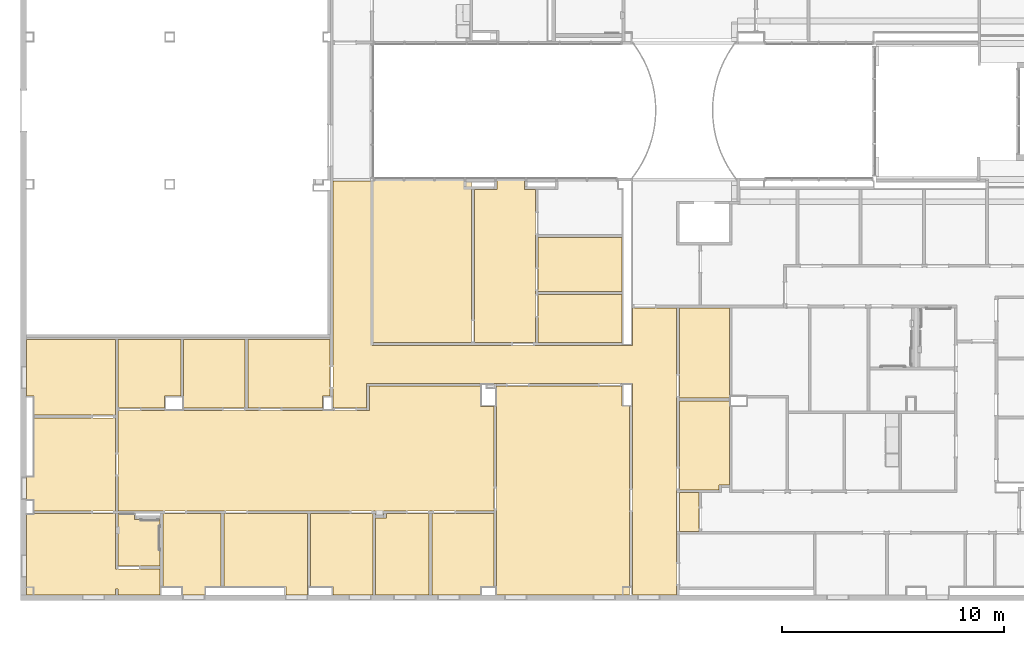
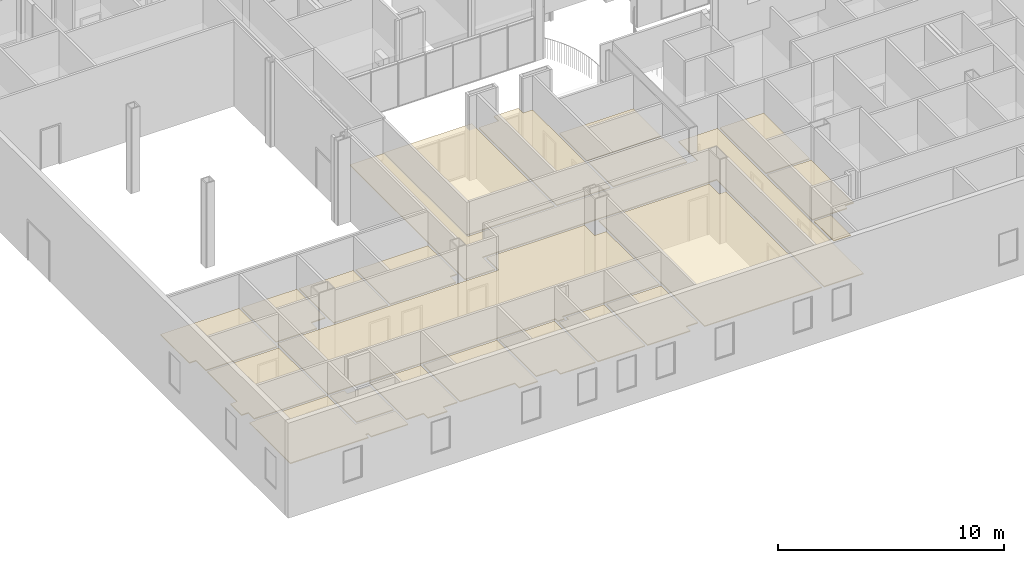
# One storey, part 26 of 47: 22 coverings.
"""IFC2X3 building model written with IfcOpenShell, lengths in metres."""

from ifc_helpers import new_model, entity, si_unit, converted_unit, frame, origin, place, context, project, spatial, face_set, surface_model, material, layer, layer_set, layer_usage, element, save


model = new_model("IFC2X3")

# Units and contexts
model_context = context("Model", 3, precision=1e-09, world=origin())
plan_context = context("Plan", 3, precision=1e-09, world=origin())
ifc_project = project(units=[si_unit("LENGTHUNIT", "METRE"), si_unit("AREAUNIT", "SQUARE_METRE"), si_unit("VOLUMEUNIT", "CUBIC_METRE"), converted_unit("PLANEANGLEUNIT", "DEGREE", entity("IfcRatioMeasure", 0.01745329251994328), si_unit("PLANEANGLEUNIT", "RADIAN"), dimensions=[0, 0, 0, 0, 0, 0, 0]), si_unit("TIMEUNIT", "SECOND")], contexts=[model_context, plan_context])

# Site, building, storey
site_placement = place(None, origin())
site = spatial("IfcSite", under=ifc_project, at=site_placement, Name="Default", CompositionType="ELEMENT")
building_placement = place(site_placement, origin())
building = spatial("IfcBuilding", under=site, at=building_placement, CompositionType="ELEMENT")
storey_placement = place(building_placement, frame((0.0, 0.0, 4.570000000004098)))
storey = spatial("IfcBuildingStorey", under=building, at=storey_placement, Name="Second Floor", CompositionType="ELEMENT", Elevation=4.570000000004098)

# Coverings
ifc_material_1 = material(Name="Default")
ifc_layer_1 = layer(ifc_material_1, 0.03599999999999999)
ifc_material_2 = material(Name="Ceiling Tile 600 x 600")
ifc_layer_2 = layer(ifc_material_2, 0.016)
ifc_layer_set = layer_set([ifc_layer_1, ifc_layer_2], Name="Compound Ceiling:ACT 600 x 600mm Grid")
ifc_layer_usage_1 = layer_usage(ifc_layer_set, "AXIS3", "NEGATIVE", 0.0)
covering_1_placement = place(storey_placement, origin())
element("IfcCovering", 1, at=covering_1_placement, inside=storey, material=ifc_layer_usage_1, Name="Compound Ceiling:ACT 600 x 600mm Grid", ObjectType="Compound Ceiling:ACT 600 x 600mm Grid", PredefinedType="CEILING", context=model_context, shape_type="SurfaceModel", body=[
    surface_model("IfcFaceBasedSurfaceModel", [(-47.11300000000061, 18.87443871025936, 2.732000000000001), (-46.77000000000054, 18.87443871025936, 2.732000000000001), (-46.77000000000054, 18.01443871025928, 2.732000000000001), (-43.11000000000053, 18.01443871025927, 2.732000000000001), (-43.11000000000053, 21.41443871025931, 2.732000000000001), (-47.11300000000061, 21.41443871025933, 2.732000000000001), (-47.11300000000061, 18.87443871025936, 2.680000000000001), (-47.11300000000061, 21.41443871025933, 2.680000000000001), (-43.11000000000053, 21.41443871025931, 2.680000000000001), (-43.11000000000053, 18.01443871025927, 2.680000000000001), (-46.77000000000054, 18.01443871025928, 2.680000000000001), (-46.77000000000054, 18.87443871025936, 2.680000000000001)], [face_set([[[0, 1, 2, 3, 4, 5]], [[6, 7, 8, 9, 10, 11]], [[2, 10, 11, 1]], [[3, 2, 10, 9]], [[4, 3, 9, 8]], [[5, 7, 8, 4]], [[0, 6, 7, 5]], [[1, 0, 6, 11]]])]),
])
ifc_layer_usage_2 = layer_usage(ifc_layer_set, "AXIS3", "NEGATIVE", 0.0)
covering_2_placement = place(storey_placement, origin())
element("IfcCovering", 2, at=covering_2_placement, inside=storey, material=ifc_layer_usage_2, Name="Compound Ceiling:ACT 600 x 600mm Grid", ObjectType="Compound Ceiling:ACT 600 x 600mm Grid", PredefinedType="CEILING", context=model_context, shape_type="SurfaceModel", body=[
    surface_model("IfcFaceBasedSurfaceModel", [(-42.98600000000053, 18.34843871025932, 2.732000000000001), (-42.98600000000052, 21.41443871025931, 2.732000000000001), (-40.15900000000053, 21.4144387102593, 2.732000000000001), (-40.15900000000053, 18.87443871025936, 2.732000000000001), (-40.89000000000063, 18.87443871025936, 2.732000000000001), (-40.89000000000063, 18.34843871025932, 2.732000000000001), (-42.98600000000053, 18.34843871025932, 2.680000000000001), (-42.98600000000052, 21.41443871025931, 2.680000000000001), (-40.15900000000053, 21.4144387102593, 2.680000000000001), (-40.15900000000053, 18.87443871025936, 2.680000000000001), (-40.89000000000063, 18.87443871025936, 2.680000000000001), (-40.89000000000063, 18.34843871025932, 2.680000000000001)], [face_set([[[0, 1, 2, 3, 4, 5]], [[6, 7, 8, 9, 10, 11]], [[5, 0, 6, 11]], [[4, 5, 11, 10]], [[3, 4, 10, 9]], [[2, 3, 9, 8]], [[1, 7, 8, 2]], [[0, 6, 7, 1]]])]),
])
ifc_layer_usage_3 = layer_usage(ifc_layer_set, "AXIS3", "NEGATIVE", 0.0)
covering_3_placement = place(storey_placement, origin())
element("IfcCovering", 3, at=covering_3_placement, inside=storey, material=ifc_layer_usage_3, Name="Compound Ceiling:ACT 600 x 600mm Grid", ObjectType="Compound Ceiling:ACT 600 x 600mm Grid", PredefinedType="CEILING", context=model_context, shape_type="SurfaceModel", body=[
    surface_model("IfcFaceBasedSurfaceModel", [(-37.26400000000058, 18.3484387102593, 2.732000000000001), (-40.03500000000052, 18.34843871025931, 2.732000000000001), (-40.03500000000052, 21.4144387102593, 2.732000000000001), (-37.26400000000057, 21.41443871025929, 2.732000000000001), (-37.26400000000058, 18.3484387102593, 2.680000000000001), (-40.03500000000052, 18.34843871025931, 2.680000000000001), (-40.03500000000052, 21.4144387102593, 2.680000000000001), (-37.26400000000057, 21.41443871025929, 2.680000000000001)], [face_set([[[0, 1, 2, 3]], [[4, 5, 6, 7]], [[3, 0, 4, 7]], [[2, 6, 7, 3]], [[1, 5, 6, 2]], [[0, 1, 5, 4]]])]),
])
ifc_layer_usage_4 = layer_usage(ifc_layer_set, "AXIS3", "NEGATIVE", 0.0)
covering_4_placement = place(storey_placement, origin())
element("IfcCovering", 4, at=covering_4_placement, inside=storey, material=ifc_layer_usage_4, Name="Compound Ceiling:ACT 600 x 600mm Grid", ObjectType="Compound Ceiling:ACT 600 x 600mm Grid", PredefinedType="CEILING", context=model_context, shape_type="SurfaceModel", body=[
    surface_model("IfcFaceBasedSurfaceModel", [(-37.14000000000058, 21.41443871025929, 2.732000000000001), (-33.44400000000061, 21.41443871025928, 2.732000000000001), (-33.44400000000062, 18.87443871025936, 2.732000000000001), (-33.78000000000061, 18.87443871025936, 2.732000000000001), (-33.78000000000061, 18.34843871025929, 2.732000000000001), (-37.14000000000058, 18.3484387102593, 2.732000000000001), (-37.14000000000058, 21.41443871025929, 2.680000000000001), (-33.44400000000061, 21.41443871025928, 2.680000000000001), (-33.44400000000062, 18.87443871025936, 2.680000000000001), (-33.78000000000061, 18.87443871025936, 2.680000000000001), (-33.78000000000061, 18.34843871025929, 2.680000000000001), (-37.14000000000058, 18.3484387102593, 2.680000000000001)], [face_set([[[0, 1, 2, 3, 4, 5]], [[6, 7, 8, 9, 10, 11]], [[5, 11, 6, 0]], [[4, 5, 11, 10]], [[3, 4, 10, 9]], [[2, 3, 9, 8]], [[1, 2, 8, 7]], [[0, 6, 7, 1]]])]),
])
ifc_layer_usage_5 = layer_usage(ifc_layer_set, "AXIS3", "NEGATIVE", 0.0)
covering_5_placement = place(storey_placement, origin())
element("IfcCovering", 5, at=covering_5_placement, inside=storey, material=ifc_layer_usage_5, Name="Compound Ceiling:ACT 600 x 600mm Grid", ObjectType="Compound Ceiling:ACT 600 x 600mm Grid", PredefinedType="CEILING", context=model_context, shape_type="SurfaceModel", body=[
    surface_model("IfcFaceBasedSurfaceModel", [(-17.83000000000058, 12.7864387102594, 2.732000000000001), (-17.83000000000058, 9.926999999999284, 2.732000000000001), (-19.8300000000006, 9.926999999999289, 2.732000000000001), (-19.83000000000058, 19.44443871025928, 2.732000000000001), (-31.80000000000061, 19.44443871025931, 2.732000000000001), (-31.80000000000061, 18.34843871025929, 2.732000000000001), (-33.32000000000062, 18.34843871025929, 2.732000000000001), (-33.3200000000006, 28.55843871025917, 2.732000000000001), (-31.55100000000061, 28.55843871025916, 2.732000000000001), (-31.55100000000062, 21.15443871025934, 2.732000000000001), (-19.83000000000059, 21.1544387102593, 2.732000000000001), (-19.83000000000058, 22.85043871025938, 2.732000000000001), (-17.83000000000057, 22.85043871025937, 2.732000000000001), (-17.83000000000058, 14.58643871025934, 2.732000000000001), (-17.83000000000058, 12.7864387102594, 2.680000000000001), (-17.83000000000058, 9.926999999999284, 2.680000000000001), (-19.8300000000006, 9.926999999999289, 2.680000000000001), (-19.83000000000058, 19.44443871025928, 2.680000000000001), (-31.80000000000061, 19.44443871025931, 2.680000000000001), (-31.80000000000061, 18.34843871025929, 2.680000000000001), (-33.32000000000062, 18.34843871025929, 2.680000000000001), (-33.3200000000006, 28.55843871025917, 2.680000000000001), (-31.55100000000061, 28.55843871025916, 2.680000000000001), (-31.55100000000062, 21.15443871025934, 2.680000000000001), (-19.83000000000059, 21.1544387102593, 2.680000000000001), (-19.83000000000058, 22.85043871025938, 2.680000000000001), (-17.83000000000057, 22.85043871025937, 2.680000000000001), (-17.83000000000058, 14.58643871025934, 2.680000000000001)], [face_set([[[0, 1, 2, 3, 4, 5, 6, 7, 8, 9, 10, 11, 12, 13]], [[14, 15, 16, 17, 18, 19, 20, 21, 22, 23, 24, 25, 26, 27]], [[13, 0, 14, 27]], [[12, 13, 27, 26]], [[11, 25, 26, 12]], [[10, 24, 25, 11]], [[9, 23, 24, 10]], [[8, 9, 23, 22]], [[7, 21, 22, 8]], [[6, 20, 21, 7]], [[5, 6, 20, 19]], [[4, 5, 19, 18]], [[3, 4, 18, 17]], [[2, 16, 17, 3]], [[1, 2, 16, 15]], [[0, 1, 15, 14]]])]),
])
ifc_layer_usage_6 = layer_usage(ifc_layer_set, "AXIS3", "NEGATIVE", 0.0)
covering_6_placement = place(storey_placement, origin())
element("IfcCovering", 6, at=covering_6_placement, inside=storey, material=ifc_layer_usage_6, Name="Compound Ceiling:ACT 600 x 600mm Grid", ObjectType="Compound Ceiling:ACT 600 x 600mm Grid", PredefinedType="CEILING", context=model_context, shape_type="SurfaceModel", body=[
    surface_model("IfcFaceBasedSurfaceModel", [(-47.11300000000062, 14.22735389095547, 2.732000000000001), (-46.77000000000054, 14.22735389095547, 2.732000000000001), (-46.77000000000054, 13.70443871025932, 2.732000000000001), (-43.11000000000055, 13.7044387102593, 2.732000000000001), (-43.11000000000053, 17.89043871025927, 2.732000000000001), (-46.77000000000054, 17.89043871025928, 2.732000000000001), (-46.77000000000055, 15.22735389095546, 2.732000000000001), (-47.11300000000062, 15.22735389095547, 2.732000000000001), (-47.11300000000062, 14.22735389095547, 2.680000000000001), (-47.11300000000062, 15.22735389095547, 2.680000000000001), (-46.77000000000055, 15.22735389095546, 2.680000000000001), (-46.77000000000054, 17.89043871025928, 2.680000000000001), (-43.11000000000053, 17.89043871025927, 2.680000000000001), (-43.11000000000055, 13.7044387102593, 2.680000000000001), (-46.77000000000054, 13.70443871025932, 2.680000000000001), (-46.77000000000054, 14.22735389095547, 2.680000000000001)], [face_set([[[0, 1, 2, 3, 4, 5, 6, 7]], [[8, 9, 10, 11, 12, 13, 14, 15]], [[2, 14, 15, 1]], [[3, 2, 14, 13]], [[4, 3, 13, 12]], [[5, 11, 12, 4]], [[6, 10, 11, 5]], [[7, 9, 10, 6]], [[0, 8, 9, 7]], [[1, 0, 8, 15]]])]),
])
ifc_layer_usage_7 = layer_usage(ifc_layer_set, "AXIS3", "NEGATIVE", 0.0)
covering_7_placement = place(storey_placement, origin())
element("IfcCovering", 7, at=covering_7_placement, inside=storey, material=ifc_layer_usage_7, Name="Compound Ceiling:ACT 600 x 600mm Grid", ObjectType="Compound Ceiling:ACT 600 x 600mm Grid", PredefinedType="CEILING", context=model_context, shape_type="SurfaceModel", body=[
    surface_model("IfcFaceBasedSurfaceModel", [(-31.67600000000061, 19.32043871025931, 2.732000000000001), (-31.67600000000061, 18.22443871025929, 2.732000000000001), (-42.98600000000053, 18.22443871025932, 2.732000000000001), (-42.98600000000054, 13.7044387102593, 2.732000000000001), (-31.38500000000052, 13.70443871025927, 2.732000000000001), (-31.38500000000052, 13.50943871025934, 2.732000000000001), (-31.03500000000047, 13.50943871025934, 2.732000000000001), (-31.03500000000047, 13.70443871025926, 2.732000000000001), (-26.0640000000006, 13.70443871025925, 2.732000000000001), (-26.06400000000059, 18.41443871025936, 2.732000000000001), (-26.66000000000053, 18.41443871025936, 2.732000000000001), (-26.66000000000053, 19.3204387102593, 2.732000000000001), (-31.67600000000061, 19.32043871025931, 2.680000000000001), (-26.66000000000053, 19.3204387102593, 2.680000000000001), (-26.66000000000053, 18.41443871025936, 2.680000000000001), (-26.06400000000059, 18.41443871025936, 2.680000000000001), (-26.0640000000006, 13.70443871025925, 2.680000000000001), (-31.03500000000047, 13.70443871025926, 2.680000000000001), (-31.03500000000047, 13.50943871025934, 2.680000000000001), (-31.38500000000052, 13.50943871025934, 2.680000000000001), (-31.38500000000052, 13.70443871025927, 2.680000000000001), (-42.98600000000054, 13.7044387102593, 2.680000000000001), (-42.98600000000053, 18.22443871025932, 2.680000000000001), (-31.67600000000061, 18.22443871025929, 2.680000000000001)], [face_set([[[0, 1, 2, 3, 4, 5, 6, 7, 8, 9, 10, 11]], [[12, 13, 14, 15, 16, 17, 18, 19, 20, 21, 22, 23]], [[1, 23, 12, 0]], [[2, 22, 23, 1]], [[3, 21, 22, 2]], [[4, 3, 21, 20]], [[5, 19, 20, 4]], [[6, 5, 19, 18]], [[7, 6, 18, 17]], [[8, 7, 17, 16]], [[9, 8, 16, 15]], [[10, 14, 15, 9]], [[11, 10, 14, 13]], [[0, 12, 13, 11]]])]),
])
ifc_layer_usage_8 = layer_usage(ifc_layer_set, "AXIS3", "NEGATIVE", 0.0)
covering_8_placement = place(storey_placement, origin())
element("IfcCovering", 8, at=covering_8_placement, inside=storey, material=ifc_layer_usage_8, Name="Compound Ceiling:ACT 600 x 600mm Grid", ObjectType="Compound Ceiling:ACT 600 x 600mm Grid", PredefinedType="CEILING", context=model_context, shape_type="SurfaceModel", body=[
    surface_model("IfcFaceBasedSurfaceModel", [(-39.08330308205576, 9.926999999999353, 2.732000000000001), (-39.08330308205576, 10.30433433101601, 2.732000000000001), (-38.34400000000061, 10.30433433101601, 2.732000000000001), (-38.34400000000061, 13.58043871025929, 2.732000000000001), (-40.96600000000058, 13.58043871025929, 2.732000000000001), (-40.96600000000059, 10.30433433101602, 2.732000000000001), (-40.08330308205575, 10.30433433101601, 2.732000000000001), (-40.08330308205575, 9.926999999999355, 2.732000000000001), (-39.08330308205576, 9.926999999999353, 2.680000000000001), (-40.08330308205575, 9.926999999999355, 2.680000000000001), (-40.08330308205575, 10.30433433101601, 2.680000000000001), (-40.96600000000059, 10.30433433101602, 2.680000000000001), (-40.96600000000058, 13.58043871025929, 2.680000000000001), (-38.34400000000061, 13.58043871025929, 2.680000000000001), (-38.34400000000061, 10.30433433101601, 2.680000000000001), (-39.08330308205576, 10.30433433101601, 2.680000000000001)], [face_set([[[0, 1, 2, 3, 4, 5, 6, 7]], [[8, 9, 10, 11, 12, 13, 14, 15]], [[2, 1, 15, 14]], [[3, 2, 14, 13]], [[4, 12, 13, 3]], [[5, 11, 12, 4]], [[6, 5, 11, 10]], [[7, 9, 10, 6]], [[0, 7, 9, 8]], [[1, 0, 8, 15]]])]),
])
ifc_layer_usage_9 = layer_usage(ifc_layer_set, "AXIS3", "NEGATIVE", 0.0)
covering_9_placement = place(storey_placement, origin())
element("IfcCovering", 9, at=covering_9_placement, inside=storey, material=ifc_layer_usage_9, Name="Compound Ceiling:ACT 600 x 600mm Grid", ObjectType="Compound Ceiling:ACT 600 x 600mm Grid", PredefinedType="CEILING", context=model_context, shape_type="SurfaceModel", body=[
    surface_model("IfcFaceBasedSurfaceModel", [(-34.45404823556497, 9.926999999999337, 2.732000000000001), (-35.42004823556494, 9.926999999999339, 2.732000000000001), (-35.42004823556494, 10.304334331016, 2.732000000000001), (-38.22000000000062, 10.30433433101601, 2.732000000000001), (-38.22000000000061, 13.58043871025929, 2.732000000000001), (-34.45404823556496, 13.58043871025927, 2.732000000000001), (-34.45404823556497, 9.926999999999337, 2.680000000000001), (-35.42004823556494, 9.926999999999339, 2.680000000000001), (-35.42004823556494, 10.304334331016, 2.680000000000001), (-38.22000000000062, 10.30433433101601, 2.680000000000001), (-38.22000000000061, 13.58043871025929, 2.680000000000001), (-34.45404823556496, 13.58043871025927, 2.680000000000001)], [face_set([[[0, 1, 2, 3, 4, 5]], [[6, 7, 8, 9, 10, 11]], [[5, 0, 6, 11]], [[4, 10, 11, 5]], [[3, 9, 10, 4]], [[2, 3, 9, 8]], [[1, 7, 8, 2]], [[0, 1, 7, 6]]])]),
])
ifc_layer_usage_10 = layer_usage(ifc_layer_set, "AXIS3", "NEGATIVE", 0.0)
covering_10_placement = place(storey_placement, origin())
element("IfcCovering", 10, at=covering_10_placement, inside=storey, material=ifc_layer_usage_10, Name="Compound Ceiling:ACT 600 x 600mm Grid", ObjectType="Compound Ceiling:ACT 600 x 600mm Grid", PredefinedType="CEILING", context=model_context, shape_type="SurfaceModel", body=[
    surface_model("IfcFaceBasedSurfaceModel", [(-31.50900000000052, 9.926999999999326, 2.732000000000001), (-33.3200000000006, 9.926999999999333, 2.732000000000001), (-33.3200000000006, 10.30433433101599, 2.732000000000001), (-34.33004823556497, 10.30433433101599, 2.732000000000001), (-34.33004823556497, 13.58043871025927, 2.732000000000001), (-31.50900000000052, 13.58043871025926, 2.732000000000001), (-31.50900000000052, 9.926999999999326, 2.680000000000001), (-33.3200000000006, 9.926999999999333, 2.680000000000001), (-33.3200000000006, 10.30433433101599, 2.680000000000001), (-34.33004823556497, 10.30433433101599, 2.680000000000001), (-34.33004823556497, 13.58043871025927, 2.680000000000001), (-31.50900000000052, 13.58043871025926, 2.680000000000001)], [face_set([[[0, 1, 2, 3, 4, 5]], [[6, 7, 8, 9, 10, 11]], [[5, 0, 6, 11]], [[4, 10, 11, 5]], [[3, 9, 10, 4]], [[2, 3, 9, 8]], [[1, 7, 8, 2]], [[0, 1, 7, 6]]])]),
])
ifc_layer_usage_11 = layer_usage(ifc_layer_set, "AXIS3", "NEGATIVE", 0.0)
covering_11_placement = place(storey_placement, origin())
element("IfcCovering", 11, at=covering_11_placement, inside=storey, material=ifc_layer_usage_11, Name="Compound Ceiling:ACT 600 x 600mm Grid", ObjectType="Compound Ceiling:ACT 600 x 600mm Grid", PredefinedType="CEILING", context=model_context, shape_type="SurfaceModel", body=[
    surface_model("IfcFaceBasedSurfaceModel", [(-28.97900000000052, 9.92699999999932, 2.732000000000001), (-31.38500000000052, 9.926999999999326, 2.732000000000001), (-31.38500000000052, 13.38543871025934, 2.732000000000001), (-30.91100000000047, 13.38543871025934, 2.732000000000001), (-30.91100000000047, 13.58043871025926, 2.732000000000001), (-28.97900000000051, 13.58043871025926, 2.732000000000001), (-28.97900000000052, 9.92699999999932, 2.680000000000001), (-31.38500000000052, 9.926999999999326, 2.680000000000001), (-31.38500000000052, 13.38543871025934, 2.680000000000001), (-30.91100000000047, 13.38543871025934, 2.680000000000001), (-30.91100000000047, 13.58043871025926, 2.680000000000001), (-28.97900000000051, 13.58043871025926, 2.680000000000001)], [face_set([[[0, 1, 2, 3, 4, 5]], [[6, 7, 8, 9, 10, 11]], [[5, 0, 6, 11]], [[4, 10, 11, 5]], [[3, 9, 10, 4]], [[2, 8, 9, 3]], [[1, 7, 8, 2]], [[0, 1, 7, 6]]])]),
])
ifc_layer_usage_12 = layer_usage(ifc_layer_set, "AXIS3", "NEGATIVE", 0.0)
covering_12_placement = place(storey_placement, origin())
element("IfcCovering", 12, at=covering_12_placement, inside=storey, material=ifc_layer_usage_12, Name="Compound Ceiling:ACT 600 x 600mm Grid", ObjectType="Compound Ceiling:ACT 600 x 600mm Grid", PredefinedType="CEILING", context=model_context, shape_type="SurfaceModel", body=[
    surface_model("IfcFaceBasedSurfaceModel", [(-26.6700000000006, 9.926999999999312, 2.732000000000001), (-26.6700000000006, 10.30443871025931, 2.732000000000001), (-26.06400000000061, 10.3044387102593, 2.732000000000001), (-26.0640000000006, 13.58043871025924, 2.732000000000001), (-28.85500000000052, 13.58043871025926, 2.732000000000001), (-28.85500000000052, 9.92699999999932, 2.732000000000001), (-26.6700000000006, 9.926999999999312, 2.680000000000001), (-28.85500000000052, 9.92699999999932, 2.680000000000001), (-28.85500000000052, 13.58043871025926, 2.680000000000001), (-26.0640000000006, 13.58043871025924, 2.680000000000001), (-26.06400000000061, 10.3044387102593, 2.680000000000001), (-26.6700000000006, 10.30443871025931, 2.680000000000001)], [face_set([[[0, 1, 2, 3, 4, 5]], [[6, 7, 8, 9, 10, 11]], [[2, 1, 11, 10]], [[3, 2, 10, 9]], [[4, 8, 9, 3]], [[5, 7, 8, 4]], [[0, 5, 7, 6]], [[1, 0, 6, 11]]])]),
])
ifc_layer_usage_13 = layer_usage(ifc_layer_set, "AXIS3", "NEGATIVE", 0.0)
covering_13_placement = place(storey_placement, origin())
element("IfcCovering", 13, at=covering_13_placement, inside=storey, material=ifc_layer_usage_13, Name="Compound Ceiling:ACT 600 x 600mm Grid", ObjectType="Compound Ceiling:ACT 600 x 600mm Grid", PredefinedType="CEILING", context=model_context, shape_type="SurfaceModel", body=[
    surface_model("IfcFaceBasedSurfaceModel", [(-19.95400000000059, 9.926999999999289, 2.732000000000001), (-25.94000000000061, 9.926999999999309, 2.732000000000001), (-25.9400000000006, 19.32043871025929, 2.732000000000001), (-20.29000000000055, 19.32043871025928, 2.732000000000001), (-20.29000000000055, 18.43053029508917, 2.732000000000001), (-19.95400000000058, 18.43053029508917, 2.732000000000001), (-19.95400000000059, 9.926999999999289, 2.680000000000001), (-25.94000000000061, 9.926999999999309, 2.680000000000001), (-25.9400000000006, 19.32043871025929, 2.680000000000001), (-20.29000000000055, 19.32043871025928, 2.680000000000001), (-20.29000000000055, 18.43053029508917, 2.680000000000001), (-19.95400000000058, 18.43053029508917, 2.680000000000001)], [face_set([[[0, 1, 2, 3, 4, 5]], [[6, 7, 8, 9, 10, 11]], [[5, 0, 6, 11]], [[4, 10, 11, 5]], [[3, 4, 10, 9]], [[2, 8, 9, 3]], [[1, 7, 8, 2]], [[0, 1, 7, 6]]])]),
])
ifc_layer_usage_14 = layer_usage(ifc_layer_set, "AXIS3", "NEGATIVE", 0.0)
covering_14_placement = place(storey_placement, origin())
element("IfcCovering", 14, at=covering_14_placement, inside=storey, material=ifc_layer_usage_14, Name="Compound Ceiling:ACT 600 x 600mm Grid", ObjectType="Compound Ceiling:ACT 600 x 600mm Grid", PredefinedType="CEILING", context=model_context, shape_type="SurfaceModel", body=[
    surface_model("IfcFaceBasedSurfaceModel", [(-42.98600000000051, 13.5804387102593, 2.732000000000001), (-42.24330308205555, 13.5804387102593, 2.732000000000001), (-42.24330308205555, 13.32443871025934, 2.732000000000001), (-41.09000000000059, 13.32443871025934, 2.732000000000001), (-41.09000000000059, 11.21843871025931, 2.732000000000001), (-42.98600000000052, 11.21843871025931, 2.732000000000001), (-42.98600000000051, 13.5804387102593, 2.680000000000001), (-42.24330308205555, 13.5804387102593, 2.680000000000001), (-42.24330308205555, 13.32443871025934, 2.680000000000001), (-41.09000000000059, 13.32443871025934, 2.680000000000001), (-41.09000000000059, 11.21843871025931, 2.680000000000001), (-42.98600000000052, 11.21843871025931, 2.680000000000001)], [face_set([[[0, 1, 2, 3, 4, 5]], [[6, 7, 8, 9, 10, 11]], [[5, 11, 6, 0]], [[4, 5, 11, 10]], [[3, 4, 10, 9]], [[2, 8, 9, 3]], [[1, 2, 8, 7]], [[0, 6, 7, 1]]])]),
])
ifc_layer_usage_15 = layer_usage(ifc_layer_set, "AXIS3", "NEGATIVE", 0.0)
covering_15_placement = place(storey_placement, origin())
element("IfcCovering", 15, at=covering_15_placement, inside=storey, material=ifc_layer_usage_15, Name="Compound Ceiling:ACT 600 x 600mm Grid", ObjectType="Compound Ceiling:ACT 600 x 600mm Grid", PredefinedType="CEILING", context=model_context, shape_type="SurfaceModel", body=[
    surface_model("IfcFaceBasedSurfaceModel", [(-16.83000000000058, 14.52443871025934, 2.732000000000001), (-16.83000000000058, 12.77999999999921, 2.732000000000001), (-17.70600000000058, 12.77999999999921, 2.732000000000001), (-17.70600000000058, 14.52443871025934, 2.732000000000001), (-16.83000000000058, 14.52443871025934, 2.680000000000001), (-16.83000000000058, 12.77999999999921, 2.680000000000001), (-17.70600000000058, 12.77999999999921, 2.680000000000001), (-17.70600000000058, 14.52443871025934, 2.680000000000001)], [face_set([[[0, 1, 2, 3]], [[4, 5, 6, 7]], [[3, 7, 4, 0]], [[2, 6, 7, 3]], [[1, 2, 6, 5]], [[0, 1, 5, 4]]])]),
])
ifc_layer_usage_16 = layer_usage(ifc_layer_set, "AXIS3", "NEGATIVE", 0.0)
covering_16_placement = place(storey_placement, origin())
element("IfcCovering", 16, at=covering_16_placement, inside=storey, material=ifc_layer_usage_16, Name="Compound Ceiling:ACT 600 x 600mm Grid", ObjectType="Compound Ceiling:ACT 600 x 600mm Grid", PredefinedType="CEILING", context=model_context, shape_type="SurfaceModel", body=[
    surface_model("IfcFaceBasedSurfaceModel", [(-17.70600000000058, 14.64843871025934, 2.732000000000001), (-17.70600000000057, 18.66045405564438, 2.732000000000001), (-15.46000000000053, 18.66045405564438, 2.732000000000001), (-15.46000000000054, 14.87343871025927, 2.732000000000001), (-15.93400000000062, 14.87343871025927, 2.732000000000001), (-15.93400000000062, 14.64843871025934, 2.732000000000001), (-17.70600000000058, 14.64843871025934, 2.680000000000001), (-17.70600000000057, 18.66045405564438, 2.680000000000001), (-15.46000000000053, 18.66045405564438, 2.680000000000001), (-15.46000000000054, 14.87343871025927, 2.680000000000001), (-15.93400000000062, 14.87343871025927, 2.680000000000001), (-15.93400000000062, 14.64843871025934, 2.680000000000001)], [face_set([[[0, 1, 2, 3, 4, 5]], [[6, 7, 8, 9, 10, 11]], [[5, 0, 6, 11]], [[4, 5, 11, 10]], [[3, 4, 10, 9]], [[2, 3, 9, 8]], [[1, 7, 8, 2]], [[0, 6, 7, 1]]])]),
])
ifc_layer_usage_17 = layer_usage(ifc_layer_set, "AXIS3", "NEGATIVE", 0.0)
covering_17_placement = place(storey_placement, origin())
element("IfcCovering", 17, at=covering_17_placement, inside=storey, material=ifc_layer_usage_17, Name="Compound Ceiling:ACT 600 x 600mm Grid", ObjectType="Compound Ceiling:ACT 600 x 600mm Grid", PredefinedType="CEILING", context=model_context, shape_type="SurfaceModel", body=[
    surface_model("IfcFaceBasedSurfaceModel", [(-15.46000000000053, 18.78445405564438, 2.732000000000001), (-17.70600000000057, 18.78445405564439, 2.732000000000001), (-17.70600000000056, 22.85043871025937, 2.732000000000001), (-15.46000000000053, 22.85043871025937, 2.732000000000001), (-15.46000000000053, 18.78445405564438, 2.680000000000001), (-17.70600000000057, 18.78445405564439, 2.680000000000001), (-17.70600000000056, 22.85043871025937, 2.680000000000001), (-15.46000000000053, 22.85043871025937, 2.680000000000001)], [face_set([[[0, 1, 2, 3]], [[4, 5, 6, 7]], [[3, 0, 4, 7]], [[2, 6, 7, 3]], [[1, 5, 6, 2]], [[0, 1, 5, 4]]])]),
])
ifc_layer_usage_18 = layer_usage(ifc_layer_set, "AXIS3", "NEGATIVE", 0.0)
covering_18_placement = place(storey_placement, origin())
element("IfcCovering", 18, at=covering_18_placement, inside=storey, material=ifc_layer_usage_18, Name="Compound Ceiling:ACT 600 x 600mm Grid", ObjectType="Compound Ceiling:ACT 600 x 600mm Grid", PredefinedType="CEILING", context=model_context, shape_type="SurfaceModel", body=[
    surface_model("IfcFaceBasedSurfaceModel", [(-24.07100000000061, 21.27843871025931, 2.732000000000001), (-24.0710000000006, 23.4604387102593, 2.732000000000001), (-20.29000000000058, 23.46043871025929, 2.732000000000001), (-20.29000000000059, 21.27843871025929, 2.732000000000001), (-24.07100000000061, 21.27843871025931, 2.680000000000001), (-24.0710000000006, 23.4604387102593, 2.680000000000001), (-20.29000000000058, 23.46043871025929, 2.680000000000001), (-20.29000000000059, 21.27843871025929, 2.680000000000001)], [face_set([[[0, 1, 2, 3]], [[4, 5, 6, 7]], [[3, 0, 4, 7]], [[2, 3, 7, 6]], [[1, 5, 6, 2]], [[0, 4, 5, 1]]])]),
])
ifc_layer_usage_19 = layer_usage(ifc_layer_set, "AXIS3", "NEGATIVE", 0.0)
covering_19_placement = place(storey_placement, origin())
element("IfcCovering", 19, at=covering_19_placement, inside=storey, material=ifc_layer_usage_19, Name="Compound Ceiling:ACT 600 x 600mm Grid", ObjectType="Compound Ceiling:ACT 600 x 600mm Grid", PredefinedType="CEILING", context=model_context, shape_type="SurfaceModel", body=[
    surface_model("IfcFaceBasedSurfaceModel", [(-20.29000000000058, 23.58443871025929, 2.732000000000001), (-24.0710000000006, 23.5844387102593, 2.732000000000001), (-24.0710000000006, 26.0244387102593, 2.732000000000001), (-20.29000000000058, 26.02443871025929, 2.732000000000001), (-20.29000000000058, 23.58443871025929, 2.680000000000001), (-24.0710000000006, 23.5844387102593, 2.680000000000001), (-24.0710000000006, 26.0244387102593, 2.680000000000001), (-20.29000000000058, 26.02443871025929, 2.680000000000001)], [face_set([[[0, 1, 2, 3]], [[4, 5, 6, 7]], [[3, 0, 4, 7]], [[2, 6, 7, 3]], [[1, 5, 6, 2]], [[0, 1, 5, 4]]])]),
])
ifc_layer_usage_20 = layer_usage(ifc_layer_set, "AXIS3", "NEGATIVE", 0.0)
covering_20_placement = place(storey_placement, origin())
element("IfcCovering", 20, at=covering_20_placement, inside=storey, material=ifc_layer_usage_20, Name="Compound Ceiling:ACT 600 x 600mm Grid", ObjectType="Compound Ceiling:ACT 600 x 600mm Grid", PredefinedType="CEILING", context=model_context, shape_type="SurfaceModel", body=[
    surface_model("IfcFaceBasedSurfaceModel", [(-25.93000000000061, 28.18443871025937, 2.732000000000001), (-25.93000000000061, 28.60743871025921, 2.732000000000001), (-24.6797500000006, 28.60743871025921, 2.732000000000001), (-24.6797500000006, 28.18443871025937, 2.732000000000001), (-24.19500000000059, 28.18443871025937, 2.732000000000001), (-24.1950000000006, 21.27843871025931, 2.732000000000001), (-26.9410000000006, 21.27843871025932, 2.732000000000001), (-26.94100000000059, 28.18443871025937, 2.732000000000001), (-25.93000000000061, 28.18443871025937, 2.680000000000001), (-25.93000000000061, 28.60743871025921, 2.680000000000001), (-24.6797500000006, 28.60743871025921, 2.680000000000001), (-24.6797500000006, 28.18443871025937, 2.680000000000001), (-24.19500000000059, 28.18443871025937, 2.680000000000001), (-24.1950000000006, 21.27843871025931, 2.680000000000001), (-26.9410000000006, 21.27843871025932, 2.680000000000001), (-26.94100000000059, 28.18443871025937, 2.680000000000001)], [face_set([[[0, 1, 2, 3, 4, 5, 6, 7]], [[8, 9, 10, 11, 12, 13, 14, 15]], [[7, 15, 8, 0]], [[6, 14, 15, 7]], [[5, 6, 14, 13]], [[4, 5, 13, 12]], [[3, 11, 12, 4]], [[2, 3, 11, 10]], [[1, 9, 10, 2]], [[0, 8, 9, 1]]])]),
])
ifc_layer_usage_21 = layer_usage(ifc_layer_set, "AXIS3", "NEGATIVE", 0.0)
covering_21_placement = place(storey_placement, origin())
element("IfcCovering", 21, at=covering_21_placement, inside=storey, material=ifc_layer_usage_21, Name="Compound Ceiling:ACT 600 x 600mm Grid", ObjectType="Compound Ceiling:ACT 600 x 600mm Grid", PredefinedType="CEILING", context=model_context, shape_type="SurfaceModel", body=[
    surface_model("IfcFaceBasedSurfaceModel", [(-31.55100000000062, 21.27843871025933, 2.732000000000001), (-31.55100000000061, 28.60743871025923, 2.732000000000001), (-27.06500000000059, 28.60743871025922, 2.732000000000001), (-27.0650000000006, 21.27843871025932, 2.732000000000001), (-31.55100000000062, 21.27843871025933, 2.680000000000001), (-31.55100000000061, 28.60743871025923, 2.680000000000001), (-27.06500000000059, 28.60743871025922, 2.680000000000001), (-27.0650000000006, 21.27843871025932, 2.680000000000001)], [face_set([[[0, 1, 2, 3]], [[4, 5, 6, 7]], [[3, 0, 4, 7]], [[2, 3, 7, 6]], [[1, 5, 6, 2]], [[0, 4, 5, 1]]])]),
])
ifc_layer_usage_22 = layer_usage(ifc_layer_set, "AXIS3", "NEGATIVE", 0.0)
covering_22_placement = place(storey_placement, origin())
element("IfcCovering", 22, at=covering_22_placement, inside=storey, material=ifc_layer_usage_22, Name="Compound Ceiling:ACT 600 x 600mm Grid", ObjectType="Compound Ceiling:ACT 600 x 600mm Grid", PredefinedType="CEILING", context=model_context, shape_type="SurfaceModel", body=[
    surface_model("IfcFaceBasedSurfaceModel", [(-43.11000000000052, 13.58043871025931, 2.732000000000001), (-43.11000000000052, 11.09443871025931, 2.732000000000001), (-41.09000000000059, 11.0944387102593, 2.732000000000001), (-41.09000000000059, 9.926999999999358, 2.732000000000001), (-42.98600000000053, 9.926999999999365, 2.732000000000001), (-42.98600000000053, 10.1794387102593, 2.732000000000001), (-43.11000000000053, 10.1794387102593, 2.732000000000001), (-43.11000000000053, 9.926999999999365, 2.732000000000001), (-47.11300000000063, 9.926999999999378, 2.732000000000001), (-47.11300000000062, 13.5384387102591, 2.732000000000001), (-46.77000000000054, 13.5384387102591, 2.732000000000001), (-46.77000000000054, 13.58043871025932, 2.732000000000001), (-43.11000000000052, 13.58043871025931, 2.680000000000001), (-46.77000000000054, 13.58043871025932, 2.680000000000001), (-46.77000000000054, 13.5384387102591, 2.680000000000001), (-47.11300000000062, 13.5384387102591, 2.680000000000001), (-47.11300000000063, 9.926999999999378, 2.680000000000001), (-43.11000000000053, 9.926999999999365, 2.680000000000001), (-43.11000000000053, 10.1794387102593, 2.680000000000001), (-42.98600000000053, 10.1794387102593, 2.680000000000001), (-42.98600000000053, 9.926999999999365, 2.680000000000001), (-41.09000000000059, 9.926999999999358, 2.680000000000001), (-41.09000000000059, 11.0944387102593, 2.680000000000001), (-43.11000000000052, 11.09443871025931, 2.680000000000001)], [face_set([[[0, 1, 2, 3, 4, 5, 6, 7, 8, 9, 10, 11]], [[12, 13, 14, 15, 16, 17, 18, 19, 20, 21, 22, 23]], [[11, 13, 12, 0]], [[10, 14, 13, 11]], [[9, 15, 14, 10]], [[8, 16, 15, 9]], [[7, 8, 16, 17]], [[6, 7, 17, 18]], [[5, 6, 18, 19]], [[4, 20, 19, 5]], [[3, 4, 20, 21]], [[2, 3, 21, 22]], [[1, 23, 22, 2]], [[0, 1, 23, 12]]])]),
])

save(model, "model.ifc")
